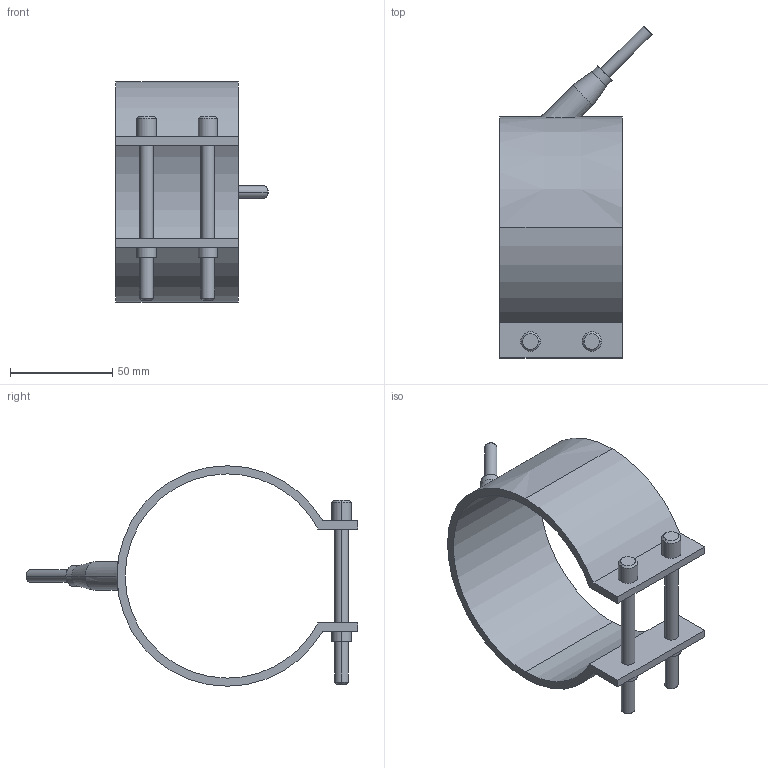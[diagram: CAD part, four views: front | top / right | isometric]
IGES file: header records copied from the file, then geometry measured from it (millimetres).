
Start section: START RECORD GO HERE.
Global section: file name: 29100060.igs; native system: DASSAULT SYSTEMES CATIA V5 R20 - www.3ds.com; preprocessor: CATIA Version 5 Release 20 ; author: Utente; organization: NB04-ASUS; date: 20210329.201902; units: millimetre
Bounding box: 74.55 x 162.55 x 108 mm (x, y, z)
Surface area: 45490.8 mm2 (no closed solid volume)
Topology: 0 solids, 0 shells, 54 faces, 242 edges, 242 vertices
Faces by surface type: revolution 38, plane 16
